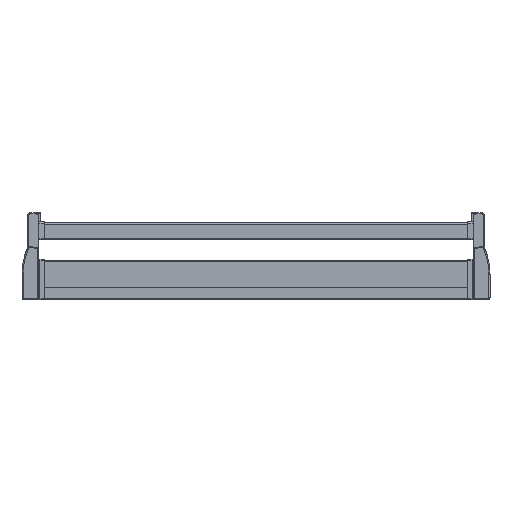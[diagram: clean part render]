
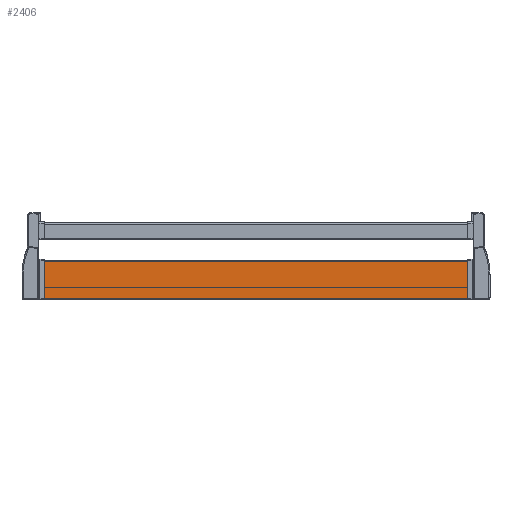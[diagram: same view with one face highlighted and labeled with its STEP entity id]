
A CAD part, top view. The second image highlights one B-rep face of the part: STEP entity #2406.
In plain terms, the highlighted planar face has unit normal (0, 0, 1).
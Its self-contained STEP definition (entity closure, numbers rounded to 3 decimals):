
#2209 = VERTEX_POINT ( 'NONE', #5729 ) ;
#2211 = EDGE_CURVE ( 'NONE', #2212, #2209, #5728, .T. ) ;
#2212 = VERTEX_POINT ( 'NONE', #5722 ) ;
#2406 = ADVANCED_FACE ( 'NONE', ( #6736 ), #6735, .F. ) ;
#2407 = EDGE_LOOP ( 'NONE', ( #2408, #2416, #2417, #2420 ) ) ;
#2408 = ORIENTED_EDGE ( 'NONE', *, *, #2523, .F. ) ;
#2416 = ORIENTED_EDGE ( 'NONE', *, *, #2211, .T. ) ;
#2417 = ORIENTED_EDGE ( 'NONE', *, *, #2418, .T. ) ;
#2418 = EDGE_CURVE ( 'NONE', #2209, #2419, #6800, .T. ) ;
#2419 = VERTEX_POINT ( 'NONE', #6794 ) ;
#2420 = ORIENTED_EDGE ( 'NONE', *, *, #2421, .F. ) ;
#2421 = EDGE_CURVE ( 'NONE', #2525, #2419, #6793, .T. ) ;
#2523 = EDGE_CURVE ( 'NONE', #2212, #2525, #6550, .T. ) ;
#2525 = VERTEX_POINT ( 'NONE', #6543 ) ;
#5722 = CARTESIAN_POINT ( 'NONE',  ( 388.8, -92.5, 1.4 ) ) ;
#5724 = DIRECTION ( 'NONE',  ( 0., 1., 0. ) ) ;
#5726 = VECTOR ( 'NONE', #5724, 1000. ) ;
#5727 = CARTESIAN_POINT ( 'NONE',  ( 388.8, -92.5, 1.4 ) ) ;
#5728 = LINE ( 'NONE', #5727, #5726 ) ;
#5729 = CARTESIAN_POINT ( 'NONE',  ( 388.8, -23., 1.4 ) ) ;
#6543 = CARTESIAN_POINT ( 'NONE',  ( -388.8, -92.5, 1.4 ) ) ;
#6546 = DIRECTION ( 'NONE',  ( -1., 0., 0. ) ) ;
#6547 = VECTOR ( 'NONE', #6546, 1000. ) ;
#6549 = CARTESIAN_POINT ( 'NONE',  ( 462.556, -92.5, 1.4 ) ) ;
#6550 = LINE ( 'NONE', #6549, #6547 ) ;
#6730 = DIRECTION ( 'NONE',  ( 0., 1., 0. ) ) ;
#6731 = DIRECTION ( 'NONE',  ( 0., 0., -1. ) ) ;
#6732 = CARTESIAN_POINT ( 'NONE',  ( 462.556, -92.5, 1.4 ) ) ;
#6734 = AXIS2_PLACEMENT_3D ( 'NONE', #6732, #6731, #6730 ) ;
#6735 = PLANE ( 'NONE',  #6734 ) ;
#6736 = FACE_OUTER_BOUND ( 'NONE', #2407, .T. ) ;
#6790 = DIRECTION ( 'NONE',  ( 0., 1., 0. ) ) ;
#6791 = VECTOR ( 'NONE', #6790, 1000. ) ;
#6792 = CARTESIAN_POINT ( 'NONE',  ( -388.8, -92.5, 1.4 ) ) ;
#6793 = LINE ( 'NONE', #6792, #6791 ) ;
#6794 = CARTESIAN_POINT ( 'NONE',  ( -388.8, -23., 1.4 ) ) ;
#6795 = DIRECTION ( 'NONE',  ( -1., 0., 0. ) ) ;
#6796 = VECTOR ( 'NONE', #6795, 1000. ) ;
#6797 = CARTESIAN_POINT ( 'NONE',  ( 462.556, -23., 1.4 ) ) ;
#6800 = LINE ( 'NONE', #6797, #6796 ) ;
